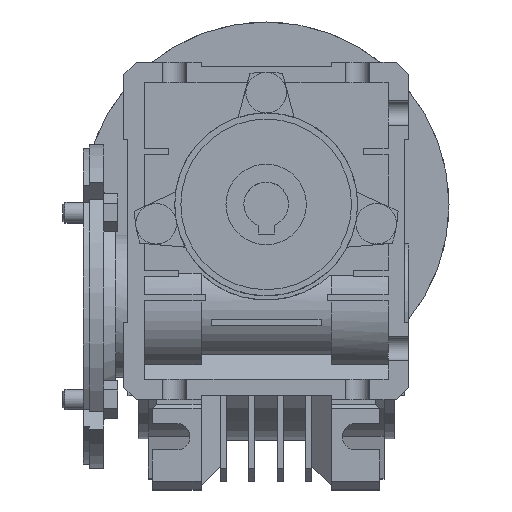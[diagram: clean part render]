
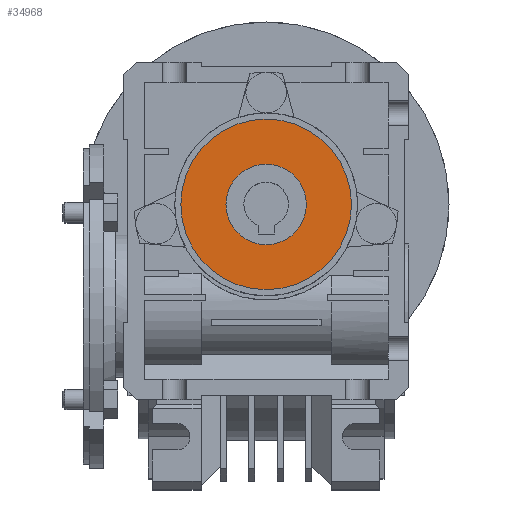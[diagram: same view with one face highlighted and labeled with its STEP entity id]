
A CAD part, top view. The second image highlights one B-rep face of the part: STEP entity #34968.
In plain terms, the highlighted planar face has unit normal (0, 0, 1) as drawn and (-1, 0, 0) by its records, which use the part's own axes.
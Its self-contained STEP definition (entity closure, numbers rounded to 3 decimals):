
#1039=CIRCLE('',#37051,21.);
#1040=CIRCLE('',#37053,9.9);
#7118=ORIENTED_EDGE('',*,*,#11499,.T.);
#7119=ORIENTED_EDGE('',*,*,#11498,.F.);
#11498=EDGE_CURVE('',#14146,#14146,#1039,.T.);
#11499=EDGE_CURVE('',#14147,#14147,#1040,.T.);
#14146=VERTEX_POINT('',#51016);
#14147=VERTEX_POINT('',#51019);
#21392=EDGE_LOOP('',(#7118));
#21393=EDGE_LOOP('',(#7119));
#22971=FACE_BOUND('',#21392,.T.);
#22972=FACE_BOUND('',#21393,.T.);
#24191=PLANE('',#37052);
#34968=ADVANCED_FACE('',(#22971,#22972),#24191,.T.);
#37051=AXIS2_PLACEMENT_3D('',#51015,#43246,#43247);
#37052=AXIS2_PLACEMENT_3D('',#51017,#43248,#43249);
#37053=AXIS2_PLACEMENT_3D('',#51018,#43250,#43251);
#43246=DIRECTION('',(1.,0.,0.));
#43247=DIRECTION('',(0.,0.,-1.));
#43248=DIRECTION('',(-1.,0.,0.));
#43249=DIRECTION('',(0.,0.,1.));
#43250=DIRECTION('',(1.,0.,0.));
#43251=DIRECTION('',(0.,0.,-1.));
#51015=CARTESIAN_POINT('',(-24.,0.,0.));
#51016=CARTESIAN_POINT('',(-24.,0.,-21.));
#51017=CARTESIAN_POINT('',(-24.,21.,0.));
#51018=CARTESIAN_POINT('',(-24.,0.,0.));
#51019=CARTESIAN_POINT('',(-24.,0.,-9.9));
